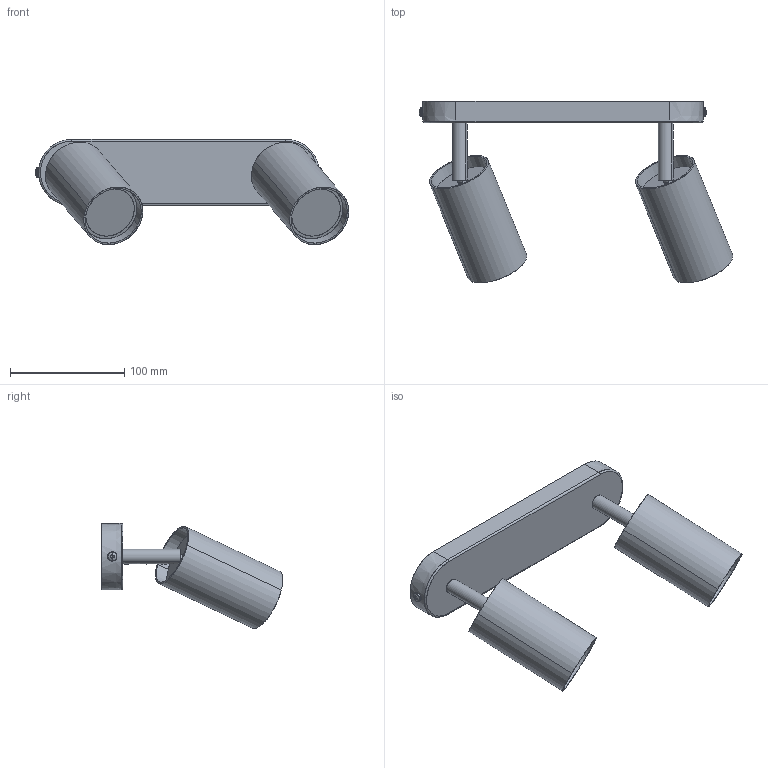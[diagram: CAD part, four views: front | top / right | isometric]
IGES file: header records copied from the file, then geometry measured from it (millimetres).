
Start section: SolidWorks IGES file using analytic representation for surfaces
Global section: file name: Z:\Modele 3D_WWW\_KOLEKCJE_WWW\EYE-SPOT\EYE-SPOT-6015-6140-6135-6020-8817\EYE-SPOT-6015-6140-6135-6020-8817.IGS; native system: SolidWorks 2020; preprocessor: SolidWorks 2020; author: gabriela.tworek; date: 210318.185647; units: millimetre
Bounding box: 274.04 x 158.87 x 91.96 mm (x, y, z)
Surface area: 155979.4 mm2 (no closed solid volume)
Topology: 0 solids, 0 shells, 326 faces, 5386 edges, 5378 vertices
Faces by surface type: bspline 164, revolution 162
